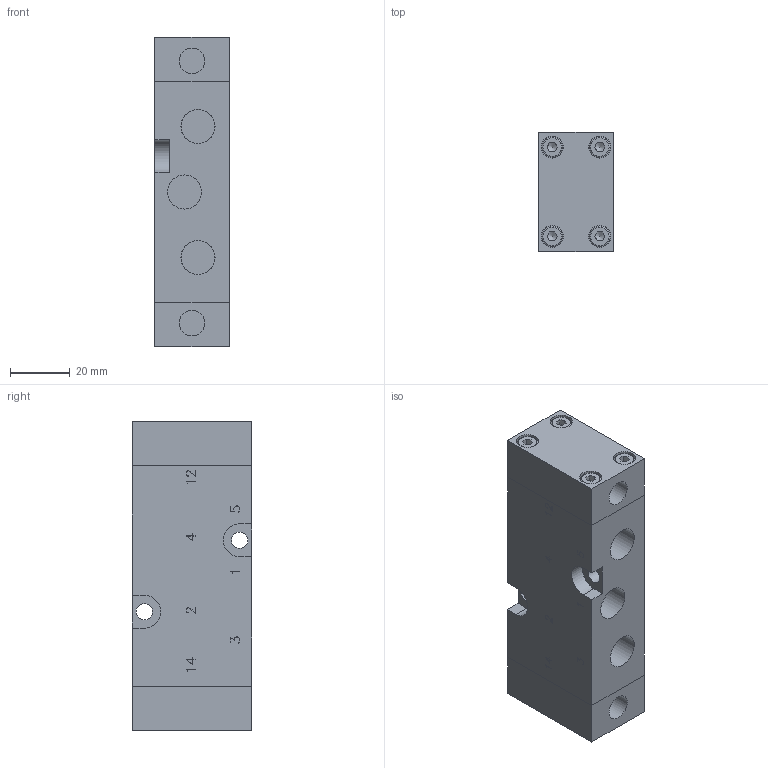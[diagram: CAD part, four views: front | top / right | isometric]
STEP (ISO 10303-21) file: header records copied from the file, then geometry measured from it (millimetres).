
FILE_DESCRIPTION (( 'STEP AP214' ), '1' );
FILE_NAME ('PNX-55-520_Airtec.step', '2019-01-07T15:39:12', ( '' ), ( '' ), 'SwSTEP 2.0', 'SolidWorks 2010', '' );
FILE_SCHEMA (( 'AUTOMOTIVE_DESIGN' ));
Length unit declared in the file: millimetre
Products named in the file (1): PNX-55-520_Airtec
Bounding box: 25 x 40 x 104 mm (x, y, z)
Volume: 96417.3 mm3; surface area: 19880.7 mm2
Topology: 1 solids, 1 shells, 324 faces, 843 edges, 555 vertices
Faces by surface type: plane 275, cylinder 28, cone 13, torus 8
Full cylindrical faces by diameter (mm): 5.5 x3, 7 x8, 7.4 x8, 8.566 x2, 11.445 x3, 19.6 x2
Entity records: 10288 total; most frequent: CARTESIAN_POINT 1738, ORIENTED_EDGE 1558, DIRECTION 1449, EDGE_CURVE 779, VECTOR 663, LINE 663, VERTEX_POINT 538, EDGE_LOOP 409
